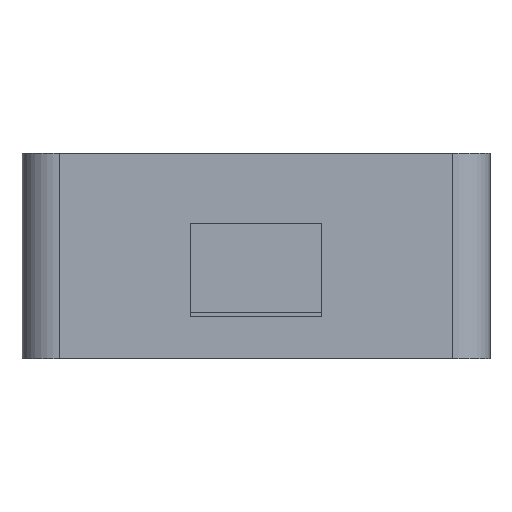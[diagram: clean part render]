
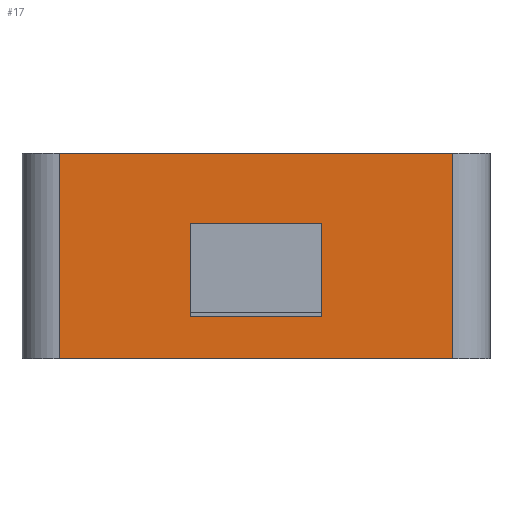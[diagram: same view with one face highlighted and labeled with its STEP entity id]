
A CAD part, left-side view. The second image highlights one B-rep face of the part: STEP entity #17.
In plain terms, the highlighted planar face has unit normal (-1, 0, 0).
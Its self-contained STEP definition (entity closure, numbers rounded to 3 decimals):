
#17 = ADVANCED_FACE('',(#18,#137),#32,.F.);
#18 = FACE_BOUND('',#19,.F.);
#19 = EDGE_LOOP('',(#20,#55,#83,#111));
#20 = ORIENTED_EDGE('',*,*,#21,.F.);
#21 = EDGE_CURVE('',#22,#24,#26,.T.);
#22 = VERTEX_POINT('',#23);
#23 = CARTESIAN_POINT('',(0.,4.,22.));
#24 = VERTEX_POINT('',#25);
#25 = CARTESIAN_POINT('',(0.,46.,22.));
#26 = SURFACE_CURVE('',#27,(#31,#43),.PCURVE_S1.);
#27 = LINE('',#28,#29);
#28 = CARTESIAN_POINT('',(0.,0.,22.));
#29 = VECTOR('',#30,1.);
#30 = DIRECTION('',(0.,1.,0.));
#31 = PCURVE('',#32,#37);
#32 = PLANE('',#33);
#33 = AXIS2_PLACEMENT_3D('',#34,#35,#36);
#34 = CARTESIAN_POINT('',(0.,0.,0.));
#35 = DIRECTION('',(1.,0.,0.));
#36 = DIRECTION('',(0.,0.,1.));
#37 = DEFINITIONAL_REPRESENTATION('',(#38),#42);
#38 = LINE('',#39,#40);
#39 = CARTESIAN_POINT('',(22.,0.));
#40 = VECTOR('',#41,1.);
#41 = DIRECTION('',(0.,-1.));
#42 = ( GEOMETRIC_REPRESENTATION_CONTEXT(2) 
PARAMETRIC_REPRESENTATION_CONTEXT() REPRESENTATION_CONTEXT('2D SPACE',''
  ) );
#43 = PCURVE('',#44,#49);
#44 = PLANE('',#45);
#45 = AXIS2_PLACEMENT_3D('',#46,#47,#48);
#46 = CARTESIAN_POINT('',(0.,0.,22.));
#47 = DIRECTION('',(0.,0.,1.));
#48 = DIRECTION('',(1.,0.,0.));
#49 = DEFINITIONAL_REPRESENTATION('',(#50),#54);
#50 = LINE('',#51,#52);
#51 = CARTESIAN_POINT('',(0.,0.));
#52 = VECTOR('',#53,1.);
#53 = DIRECTION('',(0.,1.));
#54 = ( GEOMETRIC_REPRESENTATION_CONTEXT(2) 
PARAMETRIC_REPRESENTATION_CONTEXT() REPRESENTATION_CONTEXT('2D SPACE',''
  ) );
#55 = ORIENTED_EDGE('',*,*,#56,.F.);
#56 = EDGE_CURVE('',#57,#22,#59,.T.);
#57 = VERTEX_POINT('',#58);
#58 = CARTESIAN_POINT('',(0.,4.,0.));
#59 = SURFACE_CURVE('',#60,(#64,#71),.PCURVE_S1.);
#60 = LINE('',#61,#62);
#61 = CARTESIAN_POINT('',(0.,4.,0.));
#62 = VECTOR('',#63,1.);
#63 = DIRECTION('',(0.,0.,1.));
#64 = PCURVE('',#32,#65);
#65 = DEFINITIONAL_REPRESENTATION('',(#66),#70);
#66 = LINE('',#67,#68);
#67 = CARTESIAN_POINT('',(0.,-4.));
#68 = VECTOR('',#69,1.);
#69 = DIRECTION('',(1.,0.));
#70 = ( GEOMETRIC_REPRESENTATION_CONTEXT(2) 
PARAMETRIC_REPRESENTATION_CONTEXT() REPRESENTATION_CONTEXT('2D SPACE',''
  ) );
#71 = PCURVE('',#72,#77);
#72 = CYLINDRICAL_SURFACE('',#73,4.);
#73 = AXIS2_PLACEMENT_3D('',#74,#75,#76);
#74 = CARTESIAN_POINT('',(4.,4.,0.));
#75 = DIRECTION('',(0.,0.,1.));
#76 = DIRECTION('',(-1.,-0.,0.));
#77 = DEFINITIONAL_REPRESENTATION('',(#78),#82);
#78 = LINE('',#79,#80);
#79 = CARTESIAN_POINT('',(0.,0.));
#80 = VECTOR('',#81,1.);
#81 = DIRECTION('',(0.,1.));
#82 = ( GEOMETRIC_REPRESENTATION_CONTEXT(2) 
PARAMETRIC_REPRESENTATION_CONTEXT() REPRESENTATION_CONTEXT('2D SPACE',''
  ) );
#83 = ORIENTED_EDGE('',*,*,#84,.T.);
#84 = EDGE_CURVE('',#57,#85,#87,.T.);
#85 = VERTEX_POINT('',#86);
#86 = CARTESIAN_POINT('',(0.,46.,0.));
#87 = SURFACE_CURVE('',#88,(#92,#99),.PCURVE_S1.);
#88 = LINE('',#89,#90);
#89 = CARTESIAN_POINT('',(0.,0.,0.));
#90 = VECTOR('',#91,1.);
#91 = DIRECTION('',(0.,1.,0.));
#92 = PCURVE('',#32,#93);
#93 = DEFINITIONAL_REPRESENTATION('',(#94),#98);
#94 = LINE('',#95,#96);
#95 = CARTESIAN_POINT('',(0.,0.));
#96 = VECTOR('',#97,1.);
#97 = DIRECTION('',(0.,-1.));
#98 = ( GEOMETRIC_REPRESENTATION_CONTEXT(2) 
PARAMETRIC_REPRESENTATION_CONTEXT() REPRESENTATION_CONTEXT('2D SPACE',''
  ) );
#99 = PCURVE('',#100,#105);
#100 = PLANE('',#101);
#101 = AXIS2_PLACEMENT_3D('',#102,#103,#104);
#102 = CARTESIAN_POINT('',(0.,0.,0.));
#103 = DIRECTION('',(0.,0.,1.));
#104 = DIRECTION('',(1.,0.,0.));
#105 = DEFINITIONAL_REPRESENTATION('',(#106),#110);
#106 = LINE('',#107,#108);
#107 = CARTESIAN_POINT('',(0.,0.));
#108 = VECTOR('',#109,1.);
#109 = DIRECTION('',(0.,1.));
#110 = ( GEOMETRIC_REPRESENTATION_CONTEXT(2) 
PARAMETRIC_REPRESENTATION_CONTEXT() REPRESENTATION_CONTEXT('2D SPACE',''
  ) );
#111 = ORIENTED_EDGE('',*,*,#112,.T.);
#112 = EDGE_CURVE('',#85,#24,#113,.T.);
#113 = SURFACE_CURVE('',#114,(#118,#125),.PCURVE_S1.);
#114 = LINE('',#115,#116);
#115 = CARTESIAN_POINT('',(0.,46.,0.));
#116 = VECTOR('',#117,1.);
#117 = DIRECTION('',(0.,0.,1.));
#118 = PCURVE('',#32,#119);
#119 = DEFINITIONAL_REPRESENTATION('',(#120),#124);
#120 = LINE('',#121,#122);
#121 = CARTESIAN_POINT('',(0.,-46.));
#122 = VECTOR('',#123,1.);
#123 = DIRECTION('',(1.,0.));
#124 = ( GEOMETRIC_REPRESENTATION_CONTEXT(2) 
PARAMETRIC_REPRESENTATION_CONTEXT() REPRESENTATION_CONTEXT('2D SPACE',''
  ) );
#125 = PCURVE('',#126,#131);
#126 = CYLINDRICAL_SURFACE('',#127,4.);
#127 = AXIS2_PLACEMENT_3D('',#128,#129,#130);
#128 = CARTESIAN_POINT('',(4.,46.,0.));
#129 = DIRECTION('',(0.,0.,1.));
#130 = DIRECTION('',(-1.,-0.,0.));
#131 = DEFINITIONAL_REPRESENTATION('',(#132),#136);
#132 = LINE('',#133,#134);
#133 = CARTESIAN_POINT('',(-0.,0.));
#134 = VECTOR('',#135,1.);
#135 = DIRECTION('',(-0.,1.));
#136 = ( GEOMETRIC_REPRESENTATION_CONTEXT(2) 
PARAMETRIC_REPRESENTATION_CONTEXT() REPRESENTATION_CONTEXT('2D SPACE',''
  ) );
#137 = FACE_BOUND('',#138,.F.);
#138 = EDGE_LOOP('',(#139,#167,#193,#219));
#139 = ORIENTED_EDGE('',*,*,#140,.T.);
#140 = EDGE_CURVE('',#141,#143,#145,.T.);
#141 = VERTEX_POINT('',#142);
#142 = CARTESIAN_POINT('',(0.,32.,4.5));
#143 = VERTEX_POINT('',#144);
#144 = CARTESIAN_POINT('',(0.,18.,4.5));
#145 = SURFACE_CURVE('',#146,(#150,#156),.PCURVE_S1.);
#146 = LINE('',#147,#148);
#147 = CARTESIAN_POINT('',(0.,9.,4.5));
#148 = VECTOR('',#149,1.);
#149 = DIRECTION('',(0.,-1.,0.));
#150 = PCURVE('',#32,#151);
#151 = DEFINITIONAL_REPRESENTATION('',(#152),#155);
#152 = B_SPLINE_CURVE_WITH_KNOTS('',1,(#153,#154),.UNSPECIFIED.,.F.,.F.,
  (2,2),(-23.,-9.),.PIECEWISE_BEZIER_KNOTS.);
#153 = CARTESIAN_POINT('',(4.5,-32.));
#154 = CARTESIAN_POINT('',(4.5,-18.));
#155 = ( GEOMETRIC_REPRESENTATION_CONTEXT(2) 
PARAMETRIC_REPRESENTATION_CONTEXT() REPRESENTATION_CONTEXT('2D SPACE',''
  ) );
#156 = PCURVE('',#157,#162);
#157 = PLANE('',#158);
#158 = AXIS2_PLACEMENT_3D('',#159,#160,#161);
#159 = CARTESIAN_POINT('',(-1.,18.,4.5));
#160 = DIRECTION('',(0.,0.,1.));
#161 = DIRECTION('',(1.,0.,0.));
#162 = DEFINITIONAL_REPRESENTATION('',(#163),#166);
#163 = B_SPLINE_CURVE_WITH_KNOTS('',1,(#164,#165),.UNSPECIFIED.,.F.,.F.,
  (2,2),(-23.,-9.),.PIECEWISE_BEZIER_KNOTS.);
#164 = CARTESIAN_POINT('',(1.,14.));
#165 = CARTESIAN_POINT('',(1.,0.));
#166 = ( GEOMETRIC_REPRESENTATION_CONTEXT(2) 
PARAMETRIC_REPRESENTATION_CONTEXT() REPRESENTATION_CONTEXT('2D SPACE',''
  ) );
#167 = ORIENTED_EDGE('',*,*,#168,.T.);
#168 = EDGE_CURVE('',#143,#169,#171,.T.);
#169 = VERTEX_POINT('',#170);
#170 = CARTESIAN_POINT('',(0.,18.,14.5));
#171 = SURFACE_CURVE('',#172,(#176,#182),.PCURVE_S1.);
#172 = LINE('',#173,#174);
#173 = CARTESIAN_POINT('',(0.,18.,2.25));
#174 = VECTOR('',#175,1.);
#175 = DIRECTION('',(0.,0.,1.));
#176 = PCURVE('',#32,#177);
#177 = DEFINITIONAL_REPRESENTATION('',(#178),#181);
#178 = B_SPLINE_CURVE_WITH_KNOTS('',1,(#179,#180),.UNSPECIFIED.,.F.,.F.,
  (2,2),(2.25,12.25),.PIECEWISE_BEZIER_KNOTS.);
#179 = CARTESIAN_POINT('',(4.5,-18.));
#180 = CARTESIAN_POINT('',(14.5,-18.));
#181 = ( GEOMETRIC_REPRESENTATION_CONTEXT(2) 
PARAMETRIC_REPRESENTATION_CONTEXT() REPRESENTATION_CONTEXT('2D SPACE',''
  ) );
#182 = PCURVE('',#183,#188);
#183 = PLANE('',#184);
#184 = AXIS2_PLACEMENT_3D('',#185,#186,#187);
#185 = CARTESIAN_POINT('',(-1.,18.,4.5));
#186 = DIRECTION('',(0.,1.,0.));
#187 = DIRECTION('',(0.,0.,1.));
#188 = DEFINITIONAL_REPRESENTATION('',(#189),#192);
#189 = B_SPLINE_CURVE_WITH_KNOTS('',1,(#190,#191),.UNSPECIFIED.,.F.,.F.,
  (2,2),(2.25,12.25),.PIECEWISE_BEZIER_KNOTS.);
#190 = CARTESIAN_POINT('',(0.,1.));
#191 = CARTESIAN_POINT('',(10.,1.));
#192 = ( GEOMETRIC_REPRESENTATION_CONTEXT(2) 
PARAMETRIC_REPRESENTATION_CONTEXT() REPRESENTATION_CONTEXT('2D SPACE',''
  ) );
#193 = ORIENTED_EDGE('',*,*,#194,.F.);
#194 = EDGE_CURVE('',#195,#169,#197,.T.);
#195 = VERTEX_POINT('',#196);
#196 = CARTESIAN_POINT('',(0.,32.,14.5));
#197 = SURFACE_CURVE('',#198,(#202,#208),.PCURVE_S1.);
#198 = LINE('',#199,#200);
#199 = CARTESIAN_POINT('',(0.,9.,14.5));
#200 = VECTOR('',#201,1.);
#201 = DIRECTION('',(0.,-1.,0.));
#202 = PCURVE('',#32,#203);
#203 = DEFINITIONAL_REPRESENTATION('',(#204),#207);
#204 = B_SPLINE_CURVE_WITH_KNOTS('',1,(#205,#206),.UNSPECIFIED.,.F.,.F.,
  (2,2),(-23.,-9.),.PIECEWISE_BEZIER_KNOTS.);
#205 = CARTESIAN_POINT('',(14.5,-32.));
#206 = CARTESIAN_POINT('',(14.5,-18.));
#207 = ( GEOMETRIC_REPRESENTATION_CONTEXT(2) 
PARAMETRIC_REPRESENTATION_CONTEXT() REPRESENTATION_CONTEXT('2D SPACE',''
  ) );
#208 = PCURVE('',#209,#214);
#209 = PLANE('',#210);
#210 = AXIS2_PLACEMENT_3D('',#211,#212,#213);
#211 = CARTESIAN_POINT('',(-1.,18.,14.5));
#212 = DIRECTION('',(0.,0.,1.));
#213 = DIRECTION('',(1.,0.,0.));
#214 = DEFINITIONAL_REPRESENTATION('',(#215),#218);
#215 = B_SPLINE_CURVE_WITH_KNOTS('',1,(#216,#217),.UNSPECIFIED.,.F.,.F.,
  (2,2),(-23.,-9.),.PIECEWISE_BEZIER_KNOTS.);
#216 = CARTESIAN_POINT('',(1.,14.));
#217 = CARTESIAN_POINT('',(1.,0.));
#218 = ( GEOMETRIC_REPRESENTATION_CONTEXT(2) 
PARAMETRIC_REPRESENTATION_CONTEXT() REPRESENTATION_CONTEXT('2D SPACE',''
  ) );
#219 = ORIENTED_EDGE('',*,*,#220,.F.);
#220 = EDGE_CURVE('',#141,#195,#221,.T.);
#221 = SURFACE_CURVE('',#222,(#226,#232),.PCURVE_S1.);
#222 = LINE('',#223,#224);
#223 = CARTESIAN_POINT('',(0.,32.,2.25));
#224 = VECTOR('',#225,1.);
#225 = DIRECTION('',(0.,0.,1.));
#226 = PCURVE('',#32,#227);
#227 = DEFINITIONAL_REPRESENTATION('',(#228),#231);
#228 = B_SPLINE_CURVE_WITH_KNOTS('',1,(#229,#230),.UNSPECIFIED.,.F.,.F.,
  (2,2),(2.25,12.25),.PIECEWISE_BEZIER_KNOTS.);
#229 = CARTESIAN_POINT('',(4.5,-32.));
#230 = CARTESIAN_POINT('',(14.5,-32.));
#231 = ( GEOMETRIC_REPRESENTATION_CONTEXT(2) 
PARAMETRIC_REPRESENTATION_CONTEXT() REPRESENTATION_CONTEXT('2D SPACE',''
  ) );
#232 = PCURVE('',#233,#238);
#233 = PLANE('',#234);
#234 = AXIS2_PLACEMENT_3D('',#235,#236,#237);
#235 = CARTESIAN_POINT('',(-1.,32.,4.5));
#236 = DIRECTION('',(0.,1.,0.));
#237 = DIRECTION('',(0.,0.,1.));
#238 = DEFINITIONAL_REPRESENTATION('',(#239),#242);
#239 = B_SPLINE_CURVE_WITH_KNOTS('',1,(#240,#241),.UNSPECIFIED.,.F.,.F.,
  (2,2),(2.25,12.25),.PIECEWISE_BEZIER_KNOTS.);
#240 = CARTESIAN_POINT('',(0.,1.));
#241 = CARTESIAN_POINT('',(10.,1.));
#242 = ( GEOMETRIC_REPRESENTATION_CONTEXT(2) 
PARAMETRIC_REPRESENTATION_CONTEXT() REPRESENTATION_CONTEXT('2D SPACE',''
  ) );
